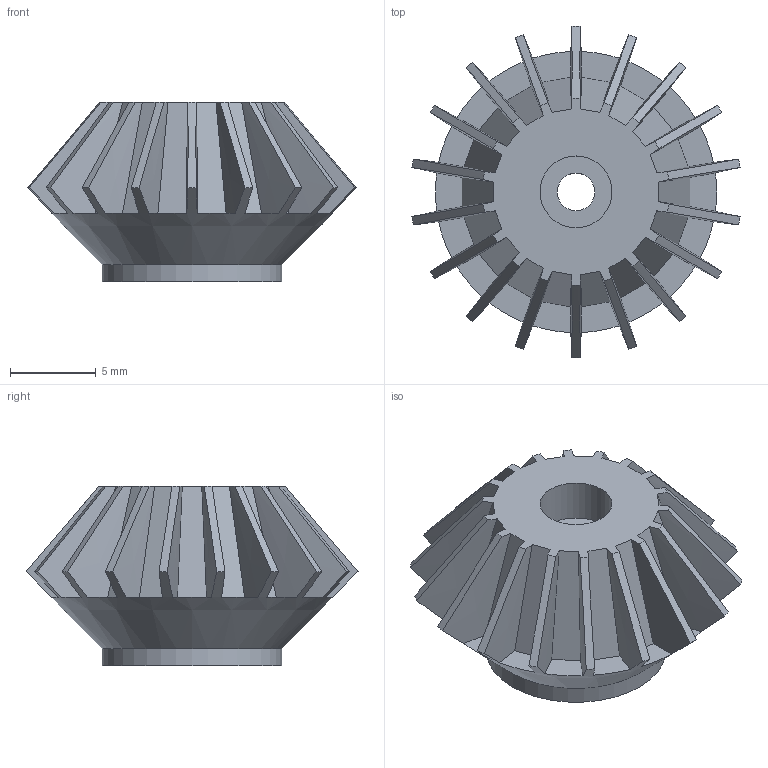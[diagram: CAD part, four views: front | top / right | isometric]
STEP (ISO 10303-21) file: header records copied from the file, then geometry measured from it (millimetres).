
FILE_DESCRIPTION(('Open CASCADE Model'),'2;1');
FILE_NAME('COMPOUND','2026-10-16T15:25:19',('Author'),('Open CASCADE'), 'Open CASCADE STEP processor 7.8','build123d','Unknown');
FILE_SCHEMA(('AUTOMOTIVE_DESIGN { 1 0 10303 214 1 1 1 1 }'));
Length unit declared in the file: millimetre
Products named in the file (2): =>[0:1:1:2]; COMPOUND
Assembly tree (1 placements, depth 2):
  =>[0:1:1:2]
    COMPOUND
Bounding box: 19.2 x 19.41 x 10.5 mm (x, y, z)
Volume: 1172 mm3; surface area: 1308.3 mm2
Topology: 1 solids, 1 shells, 109 faces, 310 edges, 204 vertices
Faces by surface type: bspline 60, plane 27, cone 19, cylinder 3
Full cylindrical faces by diameter (mm): 2.2 x1, 4.2 x1, 10.5 x1
Entity records: 12601 total; most frequent: CARTESIAN_POINT 7365, DIRECTION 645, ORIENTED_EDGE 620, PCURVE 620, DEFINITIONAL_REPRESENTATION 620, B_SPLINE_CURVE_WITH_KNOTS 432, LINE 391, VECTOR 391
